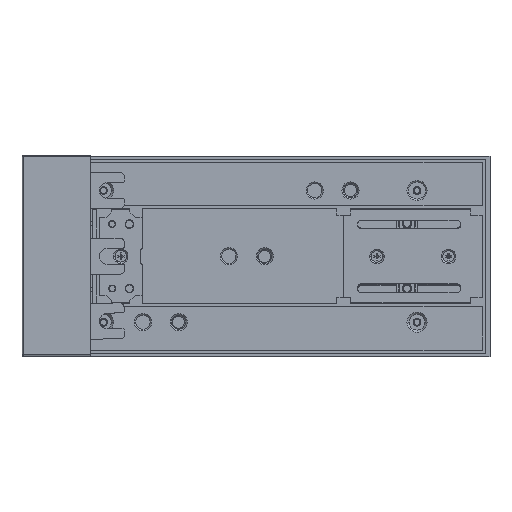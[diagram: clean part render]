
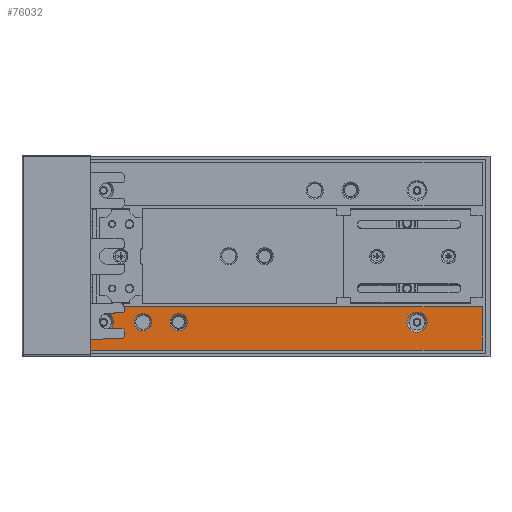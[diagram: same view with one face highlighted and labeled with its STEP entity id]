
A CAD part, top view. The second image highlights one B-rep face of the part: STEP entity #76032.
In plain terms, the highlighted planar face has unit normal (0, 0, 1).
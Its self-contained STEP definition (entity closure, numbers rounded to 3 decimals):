
#382 = CARTESIAN_POINT ( 'NONE',  ( 11.891, 205.515, 341.751 ) ) ;
#631 = DIRECTION ( 'NONE',  ( 1., 0., 0. ) ) ;
#1252 = AXIS2_PLACEMENT_3D ( 'NONE', #65118, #77220, #112734 ) ;
#2332 = EDGE_CURVE ( 'NONE', #74009, #8537, #80599, .T. ) ;
#4033 = CARTESIAN_POINT ( 'NONE',  ( 167.391, 205.515, 341.751 ) ) ;
#5289 = VERTEX_POINT ( 'NONE', #91580 ) ;
#6229 = EDGE_CURVE ( 'NONE', #22276, #103255, #40394, .T. ) ;
#8537 = VERTEX_POINT ( 'NONE', #111285 ) ;
#10468 = VECTOR ( 'NONE', #150053, 1000. ) ;
#10920 = FACE_BOUND ( 'NONE', #107547, .T. ) ;
#12810 = CARTESIAN_POINT ( 'NONE',  ( -63.609, 159.515, 341.751 ) ) ;
#13941 = CARTESIAN_POINT ( 'NONE',  ( -75.609, 159.515, 341.751 ) ) ;
#15750 = ORIENTED_EDGE ( 'NONE', *, *, #73736, .T. ) ;
#20853 = VERTEX_POINT ( 'NONE', #92104 ) ;
#20919 = CARTESIAN_POINT ( 'NONE',  ( 11.891, 140.015, 341.751 ) ) ;
#21028 = VERTEX_POINT ( 'NONE', #108178 ) ;
#22276 = VERTEX_POINT ( 'NONE', #50294 ) ;
#22939 = DIRECTION ( 'NONE',  ( 0., 0., -1. ) ) ;
#23267 = DIRECTION ( 'NONE',  ( 0., 0., -1. ) ) ;
#25819 = ORIENTED_EDGE ( 'NONE', *, *, #111112, .T. ) ;
#25840 = ORIENTED_EDGE ( 'NONE', *, *, #2332, .T. ) ;
#26320 = CARTESIAN_POINT ( 'NONE',  ( -44.609, 159.515, 341.751 ) ) ;
#27215 = CIRCLE ( 'NONE', #55562, 7. ) ;
#28492 = ORIENTED_EDGE ( 'NONE', *, *, #41791, .T. ) ;
#29977 = EDGE_CURVE ( 'NONE', #8537, #22276, #82229, .T. ) ;
#30899 = CARTESIAN_POINT ( 'NONE',  ( -69.609, 159.515, 341.751 ) ) ;
#32064 = CARTESIAN_POINT ( 'NONE',  ( 121.891, 159.515, 341.751 ) ) ;
#33146 = VERTEX_POINT ( 'NONE', #92968 ) ;
#34786 = CARTESIAN_POINT ( 'NONE',  ( -104.109, 159.515, 341.751 ) ) ;
#39949 = EDGE_CURVE ( 'NONE', #59796, #138751, #122569, .T. ) ;
#40394 = LINE ( 'NONE', #4033, #10468 ) ;
#41670 = AXIS2_PLACEMENT_3D ( 'NONE', #32064, #106250, #107877 ) ;
#41791 = EDGE_CURVE ( 'NONE', #33146, #71216, #27215, .T. ) ;
#43772 = ORIENTED_EDGE ( 'NONE', *, *, #6229, .T. ) ;
#45291 = ORIENTED_EDGE ( 'NONE', *, *, #71687, .T. ) ;
#47674 = VECTOR ( 'NONE', #79027, 1000. ) ;
#48810 = AXIS2_PLACEMENT_3D ( 'NONE', #87754, #23267, #631 ) ;
#50294 = CARTESIAN_POINT ( 'NONE',  ( 167.391, 140.015, 341.751 ) ) ;
#55562 = AXIS2_PLACEMENT_3D ( 'NONE', #84910, #150140, #125977 ) ;
#56614 = EDGE_LOOP ( 'NONE', ( #86726, #138327 ) ) ;
#58398 = EDGE_CURVE ( 'NONE', #20853, #21028, #142152, .T. ) ;
#59796 = VERTEX_POINT ( 'NONE', #13941 ) ;
#60434 = VECTOR ( 'NONE', #152241, 1000. ) ;
#61575 = EDGE_CURVE ( 'NONE', #103255, #74009, #153023, .T. ) ;
#65118 = CARTESIAN_POINT ( 'NONE',  ( -44.609, 159.515, 341.751 ) ) ;
#65919 = AXIS2_PLACEMENT_3D ( 'NONE', #84251, #22939, #147892 ) ;
#66753 = ORIENTED_EDGE ( 'NONE', *, *, #58398, .T. ) ;
#70130 = DIRECTION ( 'NONE',  ( 1., 0., 0. ) ) ;
#71216 = VERTEX_POINT ( 'NONE', #34786 ) ;
#71687 = EDGE_CURVE ( 'NONE', #71216, #33146, #133745, .T. ) ;
#72385 = EDGE_LOOP ( 'NONE', ( #15750, #145972 ) ) ;
#73380 = CIRCLE ( 'NONE', #1252, 6. ) ;
#73553 = ORIENTED_EDGE ( 'NONE', *, *, #29977, .T. ) ;
#73736 = EDGE_CURVE ( 'NONE', #138751, #59796, #152244, .T. ) ;
#74009 = VERTEX_POINT ( 'NONE', #137234 ) ;
#74627 = DIRECTION ( 'NONE',  ( 1., 0., 0. ) ) ;
#76032 = ADVANCED_FACE ( 'NONE', ( #147978, #146424, #123823, #10920, #85118 ), #96424, .T. ) ;
#77220 = DIRECTION ( 'NONE',  ( 0., 0., -1. ) ) ;
#77723 = CARTESIAN_POINT ( 'NONE',  ( 121.891, 159.515, 341.751 ) ) ;
#79027 = DIRECTION ( 'NONE',  ( 0., -1., 0. ) ) ;
#80599 = LINE ( 'NONE', #128212, #47674 ) ;
#80866 = EDGE_LOOP ( 'NONE', ( #66753, #25819 ) ) ;
#82229 = LINE ( 'NONE', #20919, #132738 ) ;
#84251 = CARTESIAN_POINT ( 'NONE',  ( -69.609, 159.515, 341.751 ) ) ;
#84910 = CARTESIAN_POINT ( 'NONE',  ( -97.109, 159.515, 341.751 ) ) ;
#85118 = FACE_BOUND ( 'NONE', #80866, .T. ) ;
#86726 = ORIENTED_EDGE ( 'NONE', *, *, #145661, .T. ) ;
#87754 = CARTESIAN_POINT ( 'NONE',  ( -97.109, 159.515, 341.751 ) ) ;
#91395 = DIRECTION ( 'NONE',  ( 1., 0., 0. ) ) ;
#91580 = CARTESIAN_POINT ( 'NONE',  ( -38.609, 159.515, 341.751 ) ) ;
#92104 = CARTESIAN_POINT ( 'NONE',  ( 128.891, 159.515, 341.751 ) ) ;
#92968 = CARTESIAN_POINT ( 'NONE',  ( -90.109, 159.515, 341.751 ) ) ;
#96364 = AXIS2_PLACEMENT_3D ( 'NONE', #382, #134316, #74627 ) ;
#96424 = PLANE ( 'NONE',  #96364 ) ;
#103231 = AXIS2_PLACEMENT_3D ( 'NONE', #77723, #141408, #153470 ) ;
#103255 = VERTEX_POINT ( 'NONE', #127197 ) ;
#104012 = ORIENTED_EDGE ( 'NONE', *, *, #61575, .T. ) ;
#105078 = DIRECTION ( 'NONE',  ( 1., 0., 0. ) ) ;
#105764 = CIRCLE ( 'NONE', #103231, 7. ) ;
#105935 = CARTESIAN_POINT ( 'NONE',  ( -50.609, 159.515, 341.751 ) ) ;
#106250 = DIRECTION ( 'NONE',  ( 0., 0., -1. ) ) ;
#107547 = EDGE_LOOP ( 'NONE', ( #28492, #45291 ) ) ;
#107829 = AXIS2_PLACEMENT_3D ( 'NONE', #26320, #119573, #105078 ) ;
#107877 = DIRECTION ( 'NONE',  ( 1., 0., 0. ) ) ;
#108178 = CARTESIAN_POINT ( 'NONE',  ( 114.891, 159.515, 341.751 ) ) ;
#111112 = EDGE_CURVE ( 'NONE', #21028, #20853, #105764, .T. ) ;
#111285 = CARTESIAN_POINT ( 'NONE',  ( -107.109, 140.015, 341.751 ) ) ;
#112734 = DIRECTION ( 'NONE',  ( 1., 0., 0. ) ) ;
#118711 = EDGE_CURVE ( 'NONE', #152396, #5289, #138682, .T. ) ;
#119573 = DIRECTION ( 'NONE',  ( 0., 0., -1. ) ) ;
#122569 = CIRCLE ( 'NONE', #65919, 6. ) ;
#123823 = FACE_BOUND ( 'NONE', #72385, .T. ) ;
#125977 = DIRECTION ( 'NONE',  ( 1., 0., 0. ) ) ;
#126461 = AXIS2_PLACEMENT_3D ( 'NONE', #30899, #129290, #91395 ) ;
#127197 = CARTESIAN_POINT ( 'NONE',  ( 167.391, 170.265, 341.751 ) ) ;
#128212 = CARTESIAN_POINT ( 'NONE',  ( -107.109, 205.515, 341.751 ) ) ;
#129290 = DIRECTION ( 'NONE',  ( 0., 0., -1. ) ) ;
#132738 = VECTOR ( 'NONE', #70130, 1000. ) ;
#133745 = CIRCLE ( 'NONE', #48810, 7. ) ;
#134316 = DIRECTION ( 'NONE',  ( 0., 0., 1. ) ) ;
#137234 = CARTESIAN_POINT ( 'NONE',  ( -107.109, 170.265, 341.751 ) ) ;
#138327 = ORIENTED_EDGE ( 'NONE', *, *, #118711, .T. ) ;
#138682 = CIRCLE ( 'NONE', #107829, 6. ) ;
#138751 = VERTEX_POINT ( 'NONE', #12810 ) ;
#141408 = DIRECTION ( 'NONE',  ( 0., 0., -1. ) ) ;
#142044 = EDGE_LOOP ( 'NONE', ( #43772, #104012, #25840, #73553 ) ) ;
#142152 = CIRCLE ( 'NONE', #41670, 7. ) ;
#145661 = EDGE_CURVE ( 'NONE', #5289, #152396, #73380, .T. ) ;
#145972 = ORIENTED_EDGE ( 'NONE', *, *, #39949, .T. ) ;
#146424 = FACE_BOUND ( 'NONE', #56614, .T. ) ;
#147892 = DIRECTION ( 'NONE',  ( 1., 0., 0. ) ) ;
#147978 = FACE_OUTER_BOUND ( 'NONE', #142044, .T. ) ;
#150053 = DIRECTION ( 'NONE',  ( 0., 1., 0. ) ) ;
#150140 = DIRECTION ( 'NONE',  ( 0., 0., -1. ) ) ;
#150635 = CARTESIAN_POINT ( 'NONE',  ( 11.891, 170.265, 341.751 ) ) ;
#152241 = DIRECTION ( 'NONE',  ( -1., 0., 0. ) ) ;
#152244 = CIRCLE ( 'NONE', #126461, 6. ) ;
#152396 = VERTEX_POINT ( 'NONE', #105935 ) ;
#153023 = LINE ( 'NONE', #150635, #60434 ) ;
#153470 = DIRECTION ( 'NONE',  ( 1., 0., 0. ) ) ;
